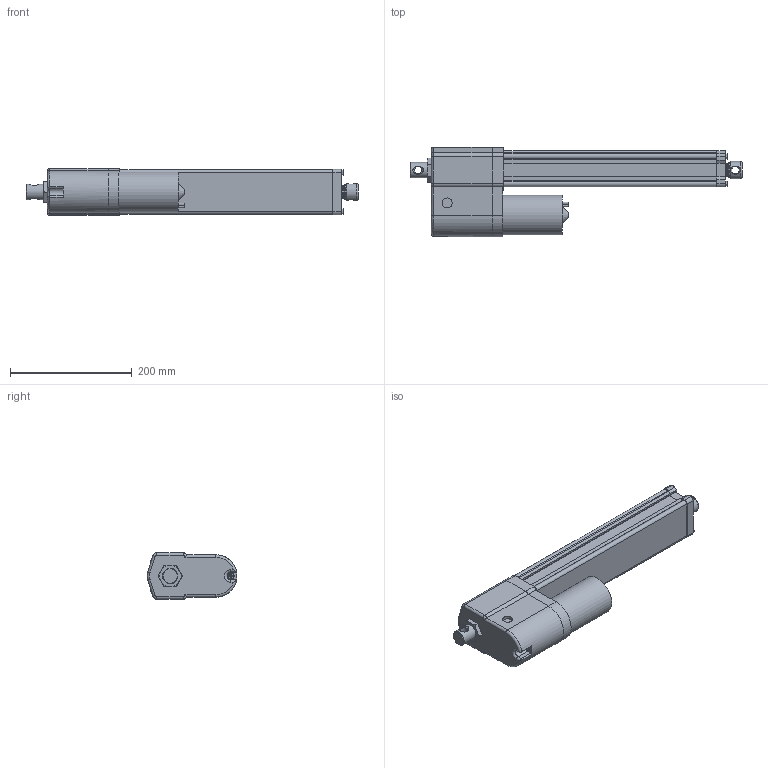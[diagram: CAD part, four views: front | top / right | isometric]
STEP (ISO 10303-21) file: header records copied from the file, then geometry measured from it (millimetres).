
FILE_DESCRIPTION( ( 'STEP AP203' ), '1' );
FILE_NAME( 'p:/temp/worker_452/temp/exporttempdir_4188_638_kilQG/format_0/DA12-05A65M30M0NPO-AMM.stp', '2020-04-12T18:18:45', ( 'License CC BY-ND 4.0' ), ( 'CADENAS' ), ' ', 'PARTsolutions', ' ' );
FILE_SCHEMA( ( 'CONFIG_CONTROL_DESIGN' ) );
Length unit declared in the file: millimetre
Products named in the file (8): DA12-05A65M30M0NPO-AMM; _ELECTRAK-LA14-DA12-05A65MM0NPO-30M-EU-REAR; _Electrak-10-EU-RA-D602700; _D602768eu; _ELECTRAK-LA14-DA12--MOTOR; _DA12-05A65M30M0NPOAMMtube; _ELECTRAK-LA14-DA12--30-PLATE; _ELECTRAK-LA14-DA12--3005A65MNPOM-ROD
Assembly tree (7 placements, depth 2):
  DA12-05A65M30M0NPO-AMM
    _ELECTRAK-LA14-DA12-05A65MM0NPO-30M-EU-REAR
    _Electrak-10-EU-RA-D602700
    _D602768eu
    _ELECTRAK-LA14-DA12--MOTOR
    _DA12-05A65M30M0NPOAMMtube
    _ELECTRAK-LA14-DA12--30-PLATE
    _ELECTRAK-LA14-DA12--3005A65MNPOM-ROD
Bounding box: 546.05 x 148 x 76.2 mm (x, y, z)
Volume: 2143221.1 mm3; surface area: 403399.2 mm2
Topology: 7 solids, 8 shells, 378 faces, 942 edges, 611 vertices
Faces by surface type: plane 184, cylinder 131, cone 45, torus 14, bspline 4
Full cylindrical faces by diameter (mm): 4 x2, 4.126 x1, 4.8 x5, 5 x5, 5.6 x4, 7.878 x4, 9.398 x1, 12.2 x2, 16 x1, 16.5 x1, 21.8 x1, 25.2 x1, 25.4 x1, 26.24 x1, 28.5 x1, 28.6 x2, 47.625 x1, 65.3 x1
Entity records: 11834 total; most frequent: CARTESIAN_POINT 2729, DIRECTION 1869, ORIENTED_EDGE 1744, EDGE_CURVE 872, AXIS2_PLACEMENT_3D 702, VERTEX_POINT 602, EDGE_LOOP 485, LINE 465
